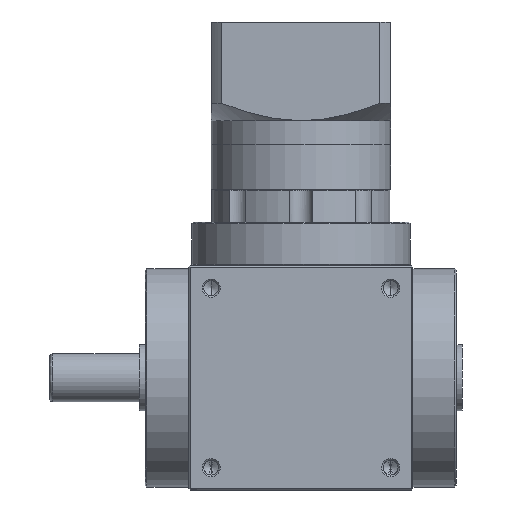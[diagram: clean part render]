
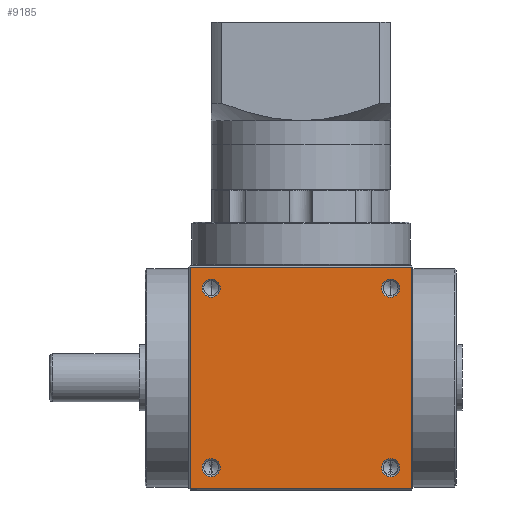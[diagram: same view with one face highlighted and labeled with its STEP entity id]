
A CAD part, front view. The second image highlights one B-rep face of the part: STEP entity #9185.
In plain terms, the highlighted planar face has unit normal (0, -1, 0).
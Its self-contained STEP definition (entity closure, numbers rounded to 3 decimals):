
#1370 = EDGE_CURVE ( 'NONE', #42578, #44467, #34120, .T. ) ;
#1687 = EDGE_LOOP ( 'NONE', ( #10198, #43720 ) ) ;
#1788 = AXIS2_PLACEMENT_3D ( 'NONE', #2511, #2338, #2146 ) ;
#2146 = DIRECTION ( 'NONE',  ( 0., 0., -1. ) ) ;
#2338 = DIRECTION ( 'NONE',  ( 0., -1., 0. ) ) ;
#2511 = CARTESIAN_POINT ( 'NONE',  ( 30., -37.5, 67.5 ) ) ;
#2841 = VERTEX_POINT ( 'NONE', #28444 ) ;
#2953 = DIRECTION ( 'NONE',  ( 0., -1., 0. ) ) ;
#3677 = EDGE_CURVE ( 'NONE', #15812, #43530, #7718, .T. ) ;
#3828 = ORIENTED_EDGE ( 'NONE', *, *, #15189, .F. ) ;
#3934 = AXIS2_PLACEMENT_3D ( 'NONE', #43527, #47706, #22895 ) ;
#5322 = ORIENTED_EDGE ( 'NONE', *, *, #47305, .F. ) ;
#5701 = ORIENTED_EDGE ( 'NONE', *, *, #10335, .F. ) ;
#7227 = EDGE_CURVE ( 'NONE', #14728, #44187, #36749, .T. ) ;
#7718 = CIRCLE ( 'NONE', #18818, 3.025 ) ;
#7939 = VERTEX_POINT ( 'NONE', #14232 ) ;
#9112 = DIRECTION ( 'NONE',  ( 0., -1., 0. ) ) ;
#9185 = ADVANCED_FACE ( 'NONE', ( #24283, #47592, #46307, #45007, #33974 ), #14474, .F. ) ;
#9349 = DIRECTION ( 'NONE',  ( 0., 0., -1. ) ) ;
#9406 = DIRECTION ( 'NONE',  ( 0., -1., 0. ) ) ;
#9422 = CARTESIAN_POINT ( 'NONE',  ( -30., -37.5, 7.5 ) ) ;
#9672 = DIRECTION ( 'NONE',  ( 0., -1., 0. ) ) ;
#10095 = AXIS2_PLACEMENT_3D ( 'NONE', #34619, #9672, #38783 ) ;
#10198 = ORIENTED_EDGE ( 'NONE', *, *, #42075, .F. ) ;
#10335 = EDGE_CURVE ( 'NONE', #44467, #42578, #35785, .T. ) ;
#10919 = AXIS2_PLACEMENT_3D ( 'NONE', #34056, #9112, #38202 ) ;
#11248 = CARTESIAN_POINT ( 'NONE',  ( 30., -37.5, 67.5 ) ) ;
#11481 = LINE ( 'NONE', #13702, #50460 ) ;
#12504 = CARTESIAN_POINT ( 'NONE',  ( 30., -37.5, 10.525 ) ) ;
#12802 = ORIENTED_EDGE ( 'NONE', *, *, #7227, .F. ) ;
#13199 = EDGE_LOOP ( 'NONE', ( #20434, #5322, #12802, #40370 ) ) ;
#13702 = CARTESIAN_POINT ( 'NONE',  ( 37., -37.5, 75. ) ) ;
#13979 = ORIENTED_EDGE ( 'NONE', *, *, #1370, .F. ) ;
#14232 = CARTESIAN_POINT ( 'NONE',  ( -30., -37.5, 64.475 ) ) ;
#14474 = PLANE ( 'NONE',  #3934 ) ;
#14728 = VERTEX_POINT ( 'NONE', #51675 ) ;
#15189 = EDGE_CURVE ( 'NONE', #19393, #30287, #36671, .T. ) ;
#15469 = DIRECTION ( 'NONE',  ( 0., 0., -1. ) ) ;
#15471 = CARTESIAN_POINT ( 'NONE',  ( -30., -37.5, 67.5 ) ) ;
#15812 = VERTEX_POINT ( 'NONE', #19534 ) ;
#16097 = ORIENTED_EDGE ( 'NONE', *, *, #49138, .F. ) ;
#16164 = DIRECTION ( 'NONE',  ( 0., -1., 0. ) ) ;
#17742 = DIRECTION ( 'NONE',  ( -1., 0., 0. ) ) ;
#17944 = DIRECTION ( 'NONE',  ( 0., 0., -1. ) ) ;
#18126 = CIRCLE ( 'NONE', #27786, 3.025 ) ;
#18626 = EDGE_LOOP ( 'NONE', ( #24341, #16097 ) ) ;
#18818 = AXIS2_PLACEMENT_3D ( 'NONE', #9422, #9406, #9349 ) ;
#19393 = VERTEX_POINT ( 'NONE', #12504 ) ;
#19534 = CARTESIAN_POINT ( 'NONE',  ( -30., -37.5, 4.475 ) ) ;
#19718 = DIRECTION ( 'NONE',  ( 0., 0., -1. ) ) ;
#20140 = LINE ( 'NONE', #50885, #51830 ) ;
#20434 = ORIENTED_EDGE ( 'NONE', *, *, #42791, .F. ) ;
#21157 = VERTEX_POINT ( 'NONE', #38587 ) ;
#21565 = CARTESIAN_POINT ( 'NONE',  ( -37.5, -37.5, 74.5 ) ) ;
#21653 = CIRCLE ( 'NONE', #30674, 3.025 ) ;
#22272 = EDGE_CURVE ( 'NONE', #2841, #7939, #21653, .T. ) ;
#22895 = DIRECTION ( 'NONE',  ( 0., 0., 1. ) ) ;
#24283 = FACE_BOUND ( 'NONE', #1687, .T. ) ;
#24341 = ORIENTED_EDGE ( 'NONE', *, *, #3677, .F. ) ;
#24380 = EDGE_CURVE ( 'NONE', #30287, #19393, #46102, .T. ) ;
#24489 = VECTOR ( 'NONE', #32308, 1000. ) ;
#25720 = DIRECTION ( 'NONE',  ( 1., 0., 0. ) ) ;
#26108 = EDGE_CURVE ( 'NONE', #21157, #14728, #20140, .T. ) ;
#27786 = AXIS2_PLACEMENT_3D ( 'NONE', #15471, #44508, #19718 ) ;
#28047 = CARTESIAN_POINT ( 'NONE',  ( -30., -37.5, 67.5 ) ) ;
#28444 = CARTESIAN_POINT ( 'NONE',  ( -30., -37.5, 70.525 ) ) ;
#28468 = VECTOR ( 'NONE', #25720, 1000. ) ;
#28498 = CARTESIAN_POINT ( 'NONE',  ( 30., -37.5, 4.475 ) ) ;
#30287 = VERTEX_POINT ( 'NONE', #28498 ) ;
#30674 = AXIS2_PLACEMENT_3D ( 'NONE', #28047, #2953, #32204 ) ;
#32204 = DIRECTION ( 'NONE',  ( 0., 0., -1. ) ) ;
#32308 = DIRECTION ( 'NONE',  ( 0., 0., 1. ) ) ;
#32420 = CARTESIAN_POINT ( 'NONE',  ( -37., -37.5, 75. ) ) ;
#33370 = EDGE_LOOP ( 'NONE', ( #41473, #3828 ) ) ;
#33974 = FACE_OUTER_BOUND ( 'NONE', #13199, .T. ) ;
#34056 = CARTESIAN_POINT ( 'NONE',  ( -30., -37.5, 7.5 ) ) ;
#34120 = CIRCLE ( 'NONE', #1788, 3.025 ) ;
#34619 = CARTESIAN_POINT ( 'NONE',  ( 30., -37.5, 7.5 ) ) ;
#35785 = CIRCLE ( 'NONE', #42717, 3.025 ) ;
#35869 = CARTESIAN_POINT ( 'NONE',  ( 37., -37.5, 74.5 ) ) ;
#36671 = CIRCLE ( 'NONE', #10095, 3.025 ) ;
#36749 = LINE ( 'NONE', #32420, #24489 ) ;
#38125 = LINE ( 'NONE', #21565, #28468 ) ;
#38202 = DIRECTION ( 'NONE',  ( 0., 0., -1. ) ) ;
#38587 = CARTESIAN_POINT ( 'NONE',  ( 37., -37.5, 0.5 ) ) ;
#38783 = DIRECTION ( 'NONE',  ( 0., 0., -1. ) ) ;
#40346 = DIRECTION ( 'NONE',  ( 0., -1., 0. ) ) ;
#40370 = ORIENTED_EDGE ( 'NONE', *, *, #26108, .F. ) ;
#40640 = CARTESIAN_POINT ( 'NONE',  ( 30., -37.5, 70.525 ) ) ;
#41008 = CARTESIAN_POINT ( 'NONE',  ( 30., -37.5, 7.5 ) ) ;
#41473 = ORIENTED_EDGE ( 'NONE', *, *, #24380, .F. ) ;
#42075 = EDGE_CURVE ( 'NONE', #7939, #2841, #18126, .T. ) ;
#42578 = VERTEX_POINT ( 'NONE', #40640 ) ;
#42717 = AXIS2_PLACEMENT_3D ( 'NONE', #11248, #40346, #15469 ) ;
#42791 = EDGE_CURVE ( 'NONE', #50507, #21157, #11481, .T. ) ;
#43527 = CARTESIAN_POINT ( 'NONE',  ( -37.5, -37.5, 75. ) ) ;
#43530 = VERTEX_POINT ( 'NONE', #50978 ) ;
#43720 = ORIENTED_EDGE ( 'NONE', *, *, #22272, .F. ) ;
#44187 = VERTEX_POINT ( 'NONE', #47333 ) ;
#44467 = VERTEX_POINT ( 'NONE', #49307 ) ;
#44508 = DIRECTION ( 'NONE',  ( 0., -1., 0. ) ) ;
#45007 = FACE_BOUND ( 'NONE', #18626, .T. ) ;
#45169 = DIRECTION ( 'NONE',  ( 0., 0., -1. ) ) ;
#46102 = CIRCLE ( 'NONE', #49173, 3.025 ) ;
#46307 = FACE_BOUND ( 'NONE', #33370, .T. ) ;
#47055 = CIRCLE ( 'NONE', #10919, 3.025 ) ;
#47305 = EDGE_CURVE ( 'NONE', #44187, #50507, #38125, .T. ) ;
#47333 = CARTESIAN_POINT ( 'NONE',  ( -37., -37.5, 74.5 ) ) ;
#47592 = FACE_BOUND ( 'NONE', #49095, .T. ) ;
#47706 = DIRECTION ( 'NONE',  ( 0., 1., 0. ) ) ;
#49095 = EDGE_LOOP ( 'NONE', ( #5701, #13979 ) ) ;
#49138 = EDGE_CURVE ( 'NONE', #43530, #15812, #47055, .T. ) ;
#49173 = AXIS2_PLACEMENT_3D ( 'NONE', #41008, #16164, #45169 ) ;
#49307 = CARTESIAN_POINT ( 'NONE',  ( 30., -37.5, 64.475 ) ) ;
#50460 = VECTOR ( 'NONE', #17944, 1000. ) ;
#50507 = VERTEX_POINT ( 'NONE', #35869 ) ;
#50885 = CARTESIAN_POINT ( 'NONE',  ( -37.5, -37.5, 0.5 ) ) ;
#50978 = CARTESIAN_POINT ( 'NONE',  ( -30., -37.5, 10.525 ) ) ;
#51675 = CARTESIAN_POINT ( 'NONE',  ( -37., -37.5, 0.5 ) ) ;
#51830 = VECTOR ( 'NONE', #17742, 1000. ) ;
